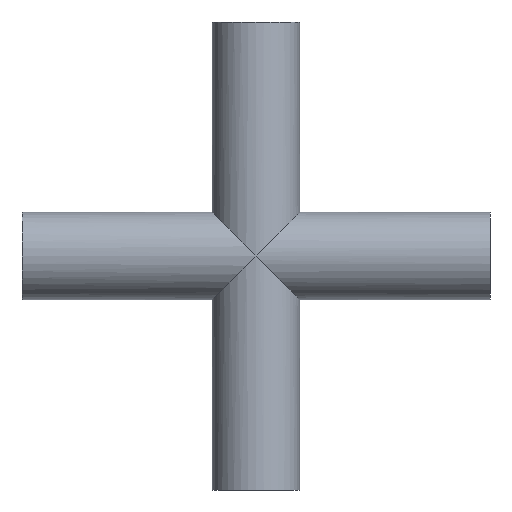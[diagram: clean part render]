
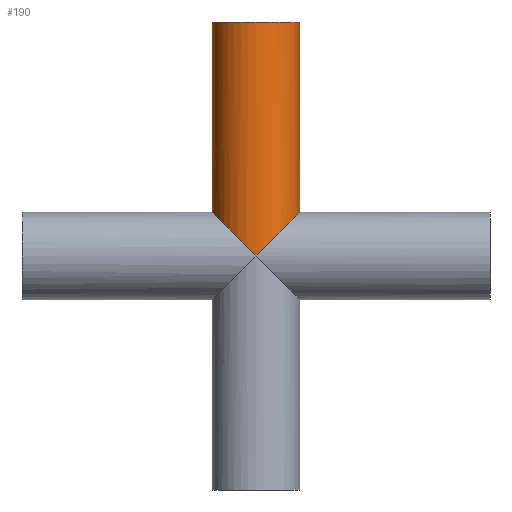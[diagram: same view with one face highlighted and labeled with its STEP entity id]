
A CAD part, front view. The second image highlights one B-rep face of the part: STEP entity #190.
In plain terms, the highlighted cylindrical face has radius 9.525 mm (diameter 19.05 mm), a partial arc.
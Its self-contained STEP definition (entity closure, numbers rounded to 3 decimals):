
#22 = EDGE_CURVE ( 'NONE', #255, #627, #355, .T. ) ;
#53 = DIRECTION ( 'NONE',  ( 0., 0., 1. ) ) ;
#65 = EDGE_LOOP ( 'NONE', ( #622, #227, #464, #100, #303 ) ) ;
#91 = CARTESIAN_POINT ( 'NONE',  ( 0., -9.525, 0. ) ) ;
#97 = DIRECTION ( 'NONE',  ( 1., 0., 0. ) ) ;
#100 = ORIENTED_EDGE ( 'NONE', *, *, #111, .T. ) ;
#111 = EDGE_CURVE ( 'NONE', #154, #255, #500, .T. ) ;
#123 = CARTESIAN_POINT ( 'NONE',  ( 9.525, 0., -50.8 ) ) ;
#145 = CARTESIAN_POINT ( 'NONE',  ( -9.525, 0., 9.525 ) ) ;
#154 = VERTEX_POINT ( 'NONE', #391 ) ;
#189 = CYLINDRICAL_SURFACE ( 'NONE', #213, 9.525 ) ;
#190 = ADVANCED_FACE ( 'NONE', ( #314 ), #189, .T. ) ;
#192 =( BOUNDED_CURVE ( )  B_SPLINE_CURVE ( 3, ( #193, #597, #630, #145 ),
 .UNSPECIFIED., .F., .F. ) 
 B_SPLINE_CURVE_WITH_KNOTS ( ( 4, 4 ),
 ( 4.712, 6.283 ),
 .UNSPECIFIED. ) 
 CURVE ( )  GEOMETRIC_REPRESENTATION_ITEM ( )  RATIONAL_B_SPLINE_CURVE ( ( 1., 0.805, 0.805, 1. ) ) 
 REPRESENTATION_ITEM ( '' )  );
#193 = CARTESIAN_POINT ( 'NONE',  ( 0., -9.525, 0. ) ) ;
#213 = AXIS2_PLACEMENT_3D ( 'NONE', #466, #53, #97 ) ;
#224 = EDGE_CURVE ( 'NONE', #154, #344, #631, .T. ) ;
#227 = ORIENTED_EDGE ( 'NONE', *, *, #393, .F. ) ;
#229 = CARTESIAN_POINT ( 'NONE',  ( 0., 0., 50.8 ) ) ;
#255 = VERTEX_POINT ( 'NONE', #551 ) ;
#259 = DIRECTION ( 'NONE',  ( 0., 0., 1. ) ) ;
#280 = DIRECTION ( 'NONE',  ( 1., 0., 0. ) ) ;
#303 = ORIENTED_EDGE ( 'NONE', *, *, #22, .T. ) ;
#314 = FACE_OUTER_BOUND ( 'NONE', #65, .T. ) ;
#319 = LINE ( 'NONE', #410, #568 ) ;
#320 = AXIS2_PLACEMENT_3D ( 'NONE', #229, #392, #280 ) ;
#344 = VERTEX_POINT ( 'NONE', #91 ) ;
#355 = CIRCLE ( 'NONE', #320, 9.525 ) ;
#364 = VERTEX_POINT ( 'NONE', #376 ) ;
#366 = CARTESIAN_POINT ( 'NONE',  ( -9.525, 0., 50.8 ) ) ;
#376 = CARTESIAN_POINT ( 'NONE',  ( -9.525, 0., 9.525 ) ) ;
#391 = CARTESIAN_POINT ( 'NONE',  ( 9.525, 0., 9.525 ) ) ;
#392 = DIRECTION ( 'NONE',  ( 0., 0., -1. ) ) ;
#393 = EDGE_CURVE ( 'NONE', #344, #364, #192, .T. ) ;
#410 = CARTESIAN_POINT ( 'NONE',  ( -9.525, 0., -50.8 ) ) ;
#439 = CARTESIAN_POINT ( 'NONE',  ( 9.525, 0., 9.525 ) ) ;
#454 = CARTESIAN_POINT ( 'NONE',  ( 9.525, -5.58, 9.525 ) ) ;
#464 = ORIENTED_EDGE ( 'NONE', *, *, #224, .F. ) ;
#466 = CARTESIAN_POINT ( 'NONE',  ( 0., 0., -50.8 ) ) ;
#500 = LINE ( 'NONE', #123, #522 ) ;
#522 = VECTOR ( 'NONE', #567, 1000. ) ;
#546 = EDGE_CURVE ( 'NONE', #364, #627, #319, .T. ) ;
#551 = CARTESIAN_POINT ( 'NONE',  ( 9.525, 0., 50.8 ) ) ;
#567 = DIRECTION ( 'NONE',  ( 0., 0., 1. ) ) ;
#568 = VECTOR ( 'NONE', #259, 1000. ) ;
#585 = CARTESIAN_POINT ( 'NONE',  ( 0., -9.525, 0. ) ) ;
#597 = CARTESIAN_POINT ( 'NONE',  ( -5.58, -9.525, 5.58 ) ) ;
#622 = ORIENTED_EDGE ( 'NONE', *, *, #546, .F. ) ;
#627 = VERTEX_POINT ( 'NONE', #366 ) ;
#630 = CARTESIAN_POINT ( 'NONE',  ( -9.525, -5.58, 9.525 ) ) ;
#631 =( BOUNDED_CURVE ( )  B_SPLINE_CURVE ( 3, ( #439, #454, #633, #585 ),
 .UNSPECIFIED., .F., .T. ) 
 B_SPLINE_CURVE_WITH_KNOTS ( ( 4, 4 ),
 ( 0., 1.571 ),
 .UNSPECIFIED. ) 
 CURVE ( )  GEOMETRIC_REPRESENTATION_ITEM ( )  RATIONAL_B_SPLINE_CURVE ( ( 1., 0.805, 0.805, 1. ) ) 
 REPRESENTATION_ITEM ( '' )  );
#633 = CARTESIAN_POINT ( 'NONE',  ( 5.58, -9.525, 5.58 ) ) ;
